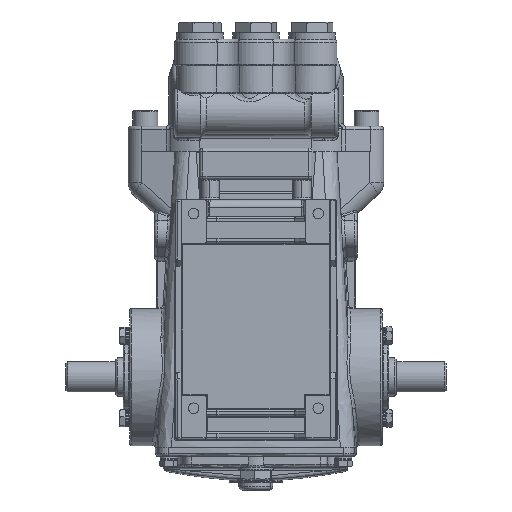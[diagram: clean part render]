
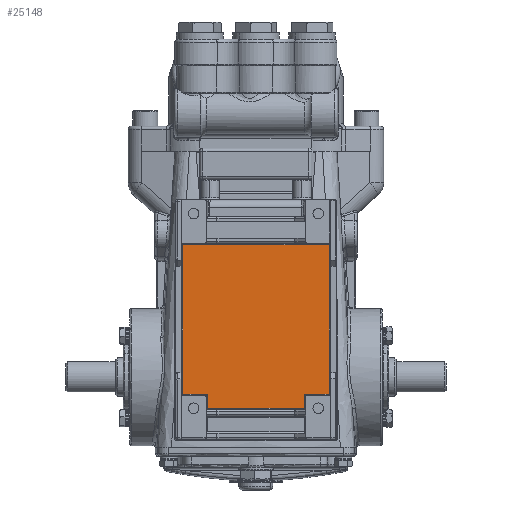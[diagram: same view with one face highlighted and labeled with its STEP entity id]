
A CAD part, front view. The second image highlights one B-rep face of the part: STEP entity #25148.
In plain terms, the highlighted planar face has unit normal (0, -1, 0).
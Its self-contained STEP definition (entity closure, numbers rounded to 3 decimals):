
#1369 = FACE_OUTER_BOUND ( 'NONE', #163672, .T. ) ;
#1379 = AXIS2_PLACEMENT_3D ( 'NONE', #164664, #164666, #164668 ) ;
#25148 = ADVANCED_FACE ( 'NONE', ( #1369 ), #164662, .T. ) ;
#32293 = LINE ( 'NONE', #32294, #167960 ) ;
#32294 = CARTESIAN_POINT ( 'NONE',  ( -32., -47., -156. ) ) ;
#32295 = DIRECTION ( 'NONE',  ( 1., 0., 0. ) ) ;
#32296 = LINE ( 'NONE', #32297, #167961 ) ;
#32297 = CARTESIAN_POINT ( 'NONE',  ( -47., -47., -157. ) ) ;
#32298 = DIRECTION ( 'NONE',  ( 0., 0., -1. ) ) ;
#32299 = LINE ( 'NONE', #32300, #167962 ) ;
#32300 = CARTESIAN_POINT ( 'NONE',  ( -31., -47., -157. ) ) ;
#32301 = DIRECTION ( 'NONE',  ( 0., 0., -1. ) ) ;
#32302 = LINE ( 'NONE', #32303, #167963 ) ;
#32303 = CARTESIAN_POINT ( 'NONE',  ( -32., -47., -165. ) ) ;
#32304 = DIRECTION ( 'NONE',  ( 1., 0., 0. ) ) ;
#32305 = LINE ( 'NONE', #32306, #167964 ) ;
#32306 = CARTESIAN_POINT ( 'NONE',  ( 31., -47., -157. ) ) ;
#32307 = DIRECTION ( 'NONE',  ( 0., 0., 1. ) ) ;
#32308 = LINE ( 'NONE', #32309, #167965 ) ;
#32309 = CARTESIAN_POINT ( 'NONE',  ( -32., -47., -156. ) ) ;
#32310 = DIRECTION ( 'NONE',  ( 1., 0., 0. ) ) ;
#32311 = LINE ( 'NONE', #32312, #167966 ) ;
#32312 = CARTESIAN_POINT ( 'NONE',  ( 47., -47., -157. ) ) ;
#32313 = DIRECTION ( 'NONE',  ( 0., 0., 1. ) ) ;
#32314 = LINE ( 'NONE', #32315, #167967 ) ;
#32315 = CARTESIAN_POINT ( 'NONE',  ( -32., -47., -60. ) ) ;
#32316 = DIRECTION ( 'NONE',  ( -1., 0., 0. ) ) ;
#114596 = EDGE_CURVE ( 'NONE', #145309, #145311, #32293, .T. ) ;
#114597 = EDGE_CURVE ( 'NONE', #145308, #145309, #32296, .T. ) ;
#114598 = EDGE_CURVE ( 'NONE', #145311, #145312, #32299, .T. ) ;
#114599 = EDGE_CURVE ( 'NONE', #145312, #145314, #32302, .T. ) ;
#114600 = EDGE_CURVE ( 'NONE', #145314, #145316, #32305, .T. ) ;
#114601 = EDGE_CURVE ( 'NONE', #145316, #145317, #32308, .T. ) ;
#114602 = EDGE_CURVE ( 'NONE', #145317, #145318, #32311, .T. ) ;
#114603 = EDGE_CURVE ( 'NONE', #145318, #145308, #32314, .T. ) ;
#132153 = CARTESIAN_POINT ( 'NONE',  ( -47., -47., -60. ) ) ;
#132155 = CARTESIAN_POINT ( 'NONE',  ( -47., -47., -156. ) ) ;
#132158 = CARTESIAN_POINT ( 'NONE',  ( -31., -47., -156. ) ) ;
#132159 = CARTESIAN_POINT ( 'NONE',  ( -31., -47., -165. ) ) ;
#132161 = CARTESIAN_POINT ( 'NONE',  ( 31., -47., -165. ) ) ;
#132163 = CARTESIAN_POINT ( 'NONE',  ( 31., -47., -156. ) ) ;
#132165 = CARTESIAN_POINT ( 'NONE',  ( 47., -47., -156. ) ) ;
#132166 = CARTESIAN_POINT ( 'NONE',  ( 47., -47., -60. ) ) ;
#145308 = VERTEX_POINT ( 'NONE', #132153 ) ;
#145309 = VERTEX_POINT ( 'NONE', #132155 ) ;
#145311 = VERTEX_POINT ( 'NONE', #132158 ) ;
#145312 = VERTEX_POINT ( 'NONE', #132159 ) ;
#145314 = VERTEX_POINT ( 'NONE', #132161 ) ;
#145316 = VERTEX_POINT ( 'NONE', #132163 ) ;
#145317 = VERTEX_POINT ( 'NONE', #132165 ) ;
#145318 = VERTEX_POINT ( 'NONE', #132166 ) ;
#158177 = ORIENTED_EDGE ( 'NONE', *, *, #114597, .T. ) ;
#158178 = ORIENTED_EDGE ( 'NONE', *, *, #114598, .T. ) ;
#158179 = ORIENTED_EDGE ( 'NONE', *, *, #114596, .T. ) ;
#158180 = ORIENTED_EDGE ( 'NONE', *, *, #114599, .T. ) ;
#158181 = ORIENTED_EDGE ( 'NONE', *, *, #114600, .T. ) ;
#158182 = ORIENTED_EDGE ( 'NONE', *, *, #114601, .T. ) ;
#158183 = ORIENTED_EDGE ( 'NONE', *, *, #114602, .T. ) ;
#158184 = ORIENTED_EDGE ( 'NONE', *, *, #114603, .T. ) ;
#163672 = EDGE_LOOP ( 'NONE', ( #158177, #158179, #158178, #158180, #158181, #158182, #158183, #158184 ) ) ;
#164662 = PLANE ( 'NONE',  #1379 ) ;
#164664 = CARTESIAN_POINT ( 'NONE',  ( -32., -47., -157. ) ) ;
#164666 = DIRECTION ( 'NONE',  ( 0., -1., 0. ) ) ;
#164668 = DIRECTION ( 'NONE',  ( 0., 0., -1. ) ) ;
#167960 = VECTOR ( 'NONE', #32295, 1000. ) ;
#167961 = VECTOR ( 'NONE', #32298, 1000. ) ;
#167962 = VECTOR ( 'NONE', #32301, 1000. ) ;
#167963 = VECTOR ( 'NONE', #32304, 1000. ) ;
#167964 = VECTOR ( 'NONE', #32307, 1000. ) ;
#167965 = VECTOR ( 'NONE', #32310, 1000. ) ;
#167966 = VECTOR ( 'NONE', #32313, 1000. ) ;
#167967 = VECTOR ( 'NONE', #32316, 1000. ) ;
